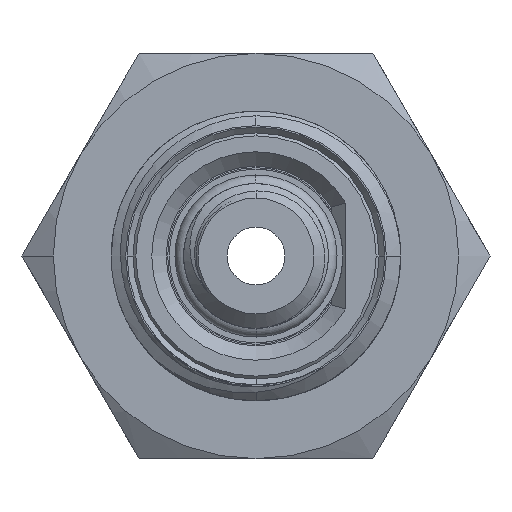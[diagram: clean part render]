
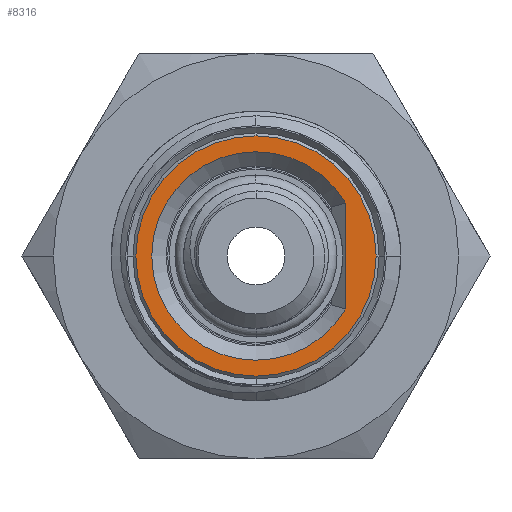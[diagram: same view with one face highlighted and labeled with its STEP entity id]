
A CAD part, front view. The second image highlights one B-rep face of the part: STEP entity #8316.
In plain terms, the highlighted planar face has unit normal (0, -1, 0).
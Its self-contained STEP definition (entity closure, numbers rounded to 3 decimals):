
#161 = CARTESIAN_POINT ( 'NONE',  ( 3.1, -0.8, 1.83 ) ) ;
#178 = AXIS2_PLACEMENT_3D ( 'NONE', #7775, #12216, #11993 ) ;
#909 = ORIENTED_EDGE ( 'NONE', *, *, #12986, .T. ) ;
#1005 = CARTESIAN_POINT ( 'NONE',  ( 4.15, -0.8, 0. ) ) ;
#1191 = DIRECTION ( 'NONE',  ( 0., -1., 0. ) ) ;
#1309 = DIRECTION ( 'NONE',  ( 0., 0., -1. ) ) ;
#2665 = AXIS2_PLACEMENT_3D ( 'NONE', #4276, #10015, #10956 ) ;
#3108 = VERTEX_POINT ( 'NONE', #4705 ) ;
#3682 = DIRECTION ( 'NONE',  ( 0., 1., 0. ) ) ;
#3737 = CARTESIAN_POINT ( 'NONE',  ( 0., -0.8, 0. ) ) ;
#3953 = ORIENTED_EDGE ( 'NONE', *, *, #5165, .T. ) ;
#4276 = CARTESIAN_POINT ( 'NONE',  ( 0., -0.8, 0. ) ) ;
#4705 = CARTESIAN_POINT ( 'NONE',  ( 0., -0.8, 4.15 ) ) ;
#4752 = VERTEX_POINT ( 'NONE', #9774 ) ;
#4806 = VECTOR ( 'NONE', #1309, 1000. ) ;
#4984 = CARTESIAN_POINT ( 'NONE',  ( 0., -0.8, -4.15 ) ) ;
#5165 = EDGE_CURVE ( 'NONE', #3108, #8694, #8031, .T. ) ;
#5181 = FACE_BOUND ( 'NONE', #6828, .T. ) ;
#5615 = LINE ( 'NONE', #161, #4806 ) ;
#6828 = EDGE_LOOP ( 'NONE', ( #13519, #909 ) ) ;
#7721 = DIRECTION ( 'NONE',  ( 0., 0., 1. ) ) ;
#7775 = CARTESIAN_POINT ( 'NONE',  ( 0., -0.8, 0. ) ) ;
#7778 = AXIS2_PLACEMENT_3D ( 'NONE', #3737, #12805, #9316 ) ;
#8019 = AXIS2_PLACEMENT_3D ( 'NONE', #9533, #3682, #8169 ) ;
#8031 = CIRCLE ( 'NONE', #14068, 4.15 ) ;
#8133 = EDGE_CURVE ( 'NONE', #9800, #4752, #5615, .T. ) ;
#8169 = DIRECTION ( 'NONE',  ( 0., 0., 1. ) ) ;
#8221 = VERTEX_POINT ( 'NONE', #1005 ) ;
#8231 = CIRCLE ( 'NONE', #7778, 3.6 ) ;
#8316 = ADVANCED_FACE ( 'NONE', ( #5181, #10286 ), #12871, .F. ) ;
#8694 = VERTEX_POINT ( 'NONE', #4984 ) ;
#9316 = DIRECTION ( 'NONE',  ( 0.861, 0., -0.508 ) ) ;
#9356 = ORIENTED_EDGE ( 'NONE', *, *, #12806, .T. ) ;
#9533 = CARTESIAN_POINT ( 'NONE',  ( 0., -0.8, 0. ) ) ;
#9774 = CARTESIAN_POINT ( 'NONE',  ( 3.1, -0.8, -1.83 ) ) ;
#9800 = VERTEX_POINT ( 'NONE', #10732 ) ;
#10015 = DIRECTION ( 'NONE',  ( 0., -1., 0. ) ) ;
#10095 = CIRCLE ( 'NONE', #2665, 4.15 ) ;
#10286 = FACE_OUTER_BOUND ( 'NONE', #12662, .T. ) ;
#10376 = EDGE_CURVE ( 'NONE', #8221, #3108, #13611, .T. ) ;
#10732 = CARTESIAN_POINT ( 'NONE',  ( 3.1, -0.8, 1.83 ) ) ;
#10956 = DIRECTION ( 'NONE',  ( 0., 0., -1. ) ) ;
#11993 = DIRECTION ( 'NONE',  ( 0., 0., -1. ) ) ;
#12216 = DIRECTION ( 'NONE',  ( 0., -1., 0. ) ) ;
#12368 = CARTESIAN_POINT ( 'NONE',  ( 0., -0.8, 0. ) ) ;
#12662 = EDGE_LOOP ( 'NONE', ( #9356, #13893, #3953 ) ) ;
#12805 = DIRECTION ( 'NONE',  ( 0., 1., 0. ) ) ;
#12806 = EDGE_CURVE ( 'NONE', #8694, #8221, #10095, .T. ) ;
#12871 = PLANE ( 'NONE',  #8019 ) ;
#12986 = EDGE_CURVE ( 'NONE', #4752, #9800, #8231, .T. ) ;
#13519 = ORIENTED_EDGE ( 'NONE', *, *, #8133, .T. ) ;
#13611 = CIRCLE ( 'NONE', #178, 4.15 ) ;
#13893 = ORIENTED_EDGE ( 'NONE', *, *, #10376, .T. ) ;
#14068 = AXIS2_PLACEMENT_3D ( 'NONE', #12368, #1191, #7721 ) ;
